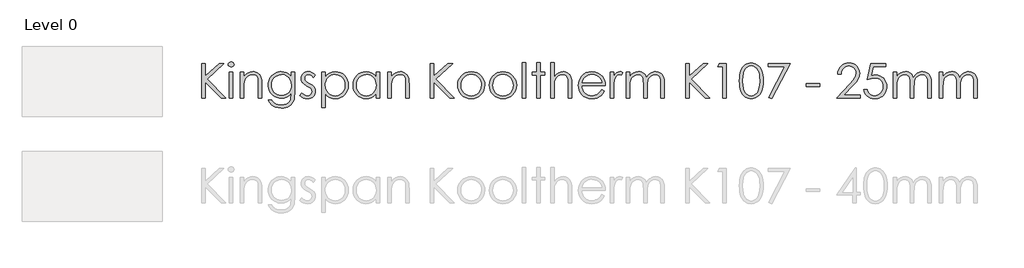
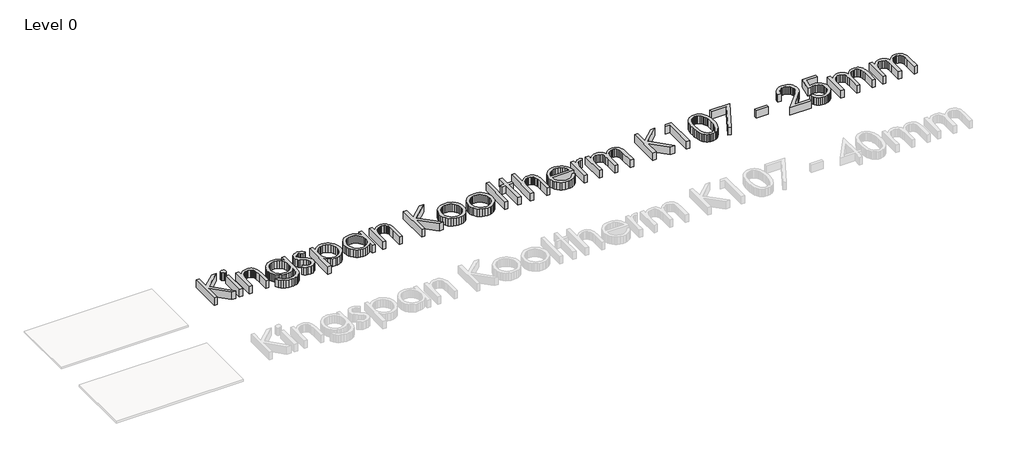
# One storey, part 13 of 13: 1 proxy.
"""IFC4 building model written with IfcOpenShell, lengths in millimetres."""

from ifc_helpers import new_model, si_unit, origin, origin_with_axes, place, context, project, spatial, polyline, outline, extrude, element, save

model = new_model("IFC4")

# Units and contexts
model_context = context("Model", 3, world=origin())
ifc_project = project(units=[si_unit("LENGTHUNIT", "METRE", prefix="MILLI")], contexts=[model_context])

# Site, building, storey
site = spatial("IfcSite", under=ifc_project)
building = spatial("IfcBuilding", under=site)
storey = spatial("IfcBuildingStorey", under=building, Name="Level 0", Elevation=0.0)

# Proxy
placement = place(None, origin())
element("IfcBuildingElementProxy", 1, Name="600mm KI_CenturyGothic", ObjectType="600mm KI_CenturyGothic", at=placement, inside=storey, context=model_context, shape_type="SweptSolid", body=[
    extrude(outline(polyline([(-3852.2663848, 5900.8965983), (-3792.944575, 5900.8965983), (-3792.944575, 5681.683973), (-3555.1938841, 5900.8965983), (-3471.6181051, 5900.8965983), (-3760.9664119, 5633.9484541), (-3441.9572002, 5307.6785001), (-3520.8984627, 5307.6785001), (-3792.944575, 5585.9039675), (-3792.944575, 5307.6785001), (-3852.2663848, 5307.6785001), (-3852.2663848, 5900.8965983)])), origin_with_axes(), (0.0, 0.0, 1.0), 150.0),
    extrude(outline(polyline([(-3348.1854852, 5930.5575033), (-3329.145347, 5927.2747208), (-3313.1176445, 5917.4263735), (-3302.226531, 5902.9821307), (-3298.5961598, 5885.911662), (-3302.226531, 5869.0729191), (-3313.1176445, 5854.7059183), (-3329.145347, 5844.857571), (-3348.1854852, 5841.5747885), (-3366.9938975, 5844.857571), (-3382.9443581, 5854.7059183), (-3393.8354717, 5869.0729191), (-3397.4658428, 5885.911662), (-3393.8354717, 5902.9821307), (-3382.9443581, 5917.4263735), (-3366.9938975, 5927.2747208), (-3348.1854852, 5930.5575033)])), origin_with_axes(), (0.0, 0.0, 1.0), 150.0),
    extrude(outline(polyline([(-3377.6919062, 5752.5920738), (-3318.3700964, 5752.5920738), (-3318.3700964, 5307.6785001), (-3377.6919062, 5307.6785001), (-3377.6919062, 5752.5920738)])), origin_with_axes(), (0.0, 0.0, 1.0), 150.0),
    extrude(outline(polyline([(-3189.8395084, 5752.5920738), (-3130.5176986, 5752.5920738), (-3130.5176986, 5673.4963274), (-3096.9946967, 5713.0055796), (-3060.0730495, 5740.696815), (-3019.7141359, 5757.0334853), (-2975.879335, 5762.4790421), (-2953.4357238, 5760.9004099), (-2932.2955704, 5756.1645135), (-2912.4588747, 5748.2713528), (-2893.9256368, 5737.2209277), (-2877.212412, 5723.4960006), (-2862.835756, 5707.5793333), (-2841.0921499, 5669.1707787), (-2833.6238199, 5644.7912914), (-2828.2892984, 5614.4448643), (-2824.0216812, 5535.8511905), (-2824.0216812, 5307.6785001), (-2883.343491, 5307.6785001), (-2883.343491, 5520.8662542), (-2883.343491, 5623.907002), (-2884.7290183, 5644.7043943), (-2889.8125035, 5662.7596977), (-2898.2849788, 5678.0729123), (-2910.1464442, 5690.644038), (-2924.7403432, 5700.4441091), (-2941.4101193, 5707.4441599), (-2980.977303, 5713.0442006), (-3005.3471351, 5710.8862539), (-3028.4038541, 5704.4124138), (-3050.1474602, 5693.6226803), (-3070.5779533, 5678.5170534), (-3088.6622225, 5660.2348518), (-3103.3671568, 5639.915394), (-3114.6927562, 5617.55868), (-3122.6390208, 5593.1647099), (-3128.5480292, 5546.0857475), (-3130.5176986, 5471.5858965), (-3130.5176986, 5307.6785001), (-3189.8395084, 5307.6785001), (-3189.8395084, 5752.5920738)])), origin_with_axes(), (0.0, 0.0, 1.0), 150.0),
    extrude(outline(polyline([(-2319.7862977, 5752.5920738), (-2260.4644879, 5752.5920738), (-2260.4644879, 5401.604699), (-2264.5196897, 5321.3503235), (-2269.588692, 5290.5500999), (-2276.6852953, 5265.9678526), (-2289.9371156, 5237.3545415), (-2307.2924139, 5212.2267729), (-2328.7511904, 5190.5845469), (-2354.3134448, 5172.4278634), (-2383.3226209, 5158.0656902), (-2415.122162, 5147.8069951), (-2449.7120682, 5141.651778), (-2487.0923395, 5139.6000389), (-2541.0458345, 5143.6166198), (-2589.206184, 5155.6663624), (-2630.260275, 5174.4940853), (-2662.8949946, 5198.8446068), (-2690.2000204, 5232.1938144), (-2715.2650299, 5278.0175952), (-2655.94322, 5278.0175952), (-2642.4355358, 5256.848476), (-2627.0933555, 5238.6048954), (-2609.9166791, 5223.2868532), (-2590.9055067, 5210.8943494), (-2569.7894914, 5201.3308318), (-2546.2982864, 5194.4997477), (-2492.1903075, 5189.0348805), (-2438.5071593, 5194.3645743), (-2415.083541, 5201.0266916), (-2393.93856, 5210.3536559), (-2359.6624492, 5234.3952097), (-2336.8567664, 5263.8823202), (-2329.3884364, 5282.5217658), (-2324.0539149, 5306.2302137), (-2319.7862977, 5368.8541165), (-2319.7862977, 5391.5632468), (-2354.757586, 5355.7809182), (-2396.6420279, 5329.3834852), (-2443.392712, 5313.1047464), (-2492.9627269, 5307.6785001), (-2522.4063889, 5309.5757553), (-2550.9521133, 5315.2675207), (-2578.5999001, 5324.7537964), (-2605.3497494, 5338.0345825), (-2630.1540674, 5354.5257366), (-2651.9652601, 5373.6431168), (-2670.7833277, 5395.3867228), (-2686.6082702, 5419.7565549), (-2699.1456025, 5446.0719183), (-2708.1008399, 5473.6521184), (-2713.4739824, 5502.4971553), (-2715.2650299, 5532.607029), (-2713.3967404, 5562.8955247), (-2707.7918722, 5592.1219437), (-2698.4504251, 5620.286286), (-2685.3723991, 5647.3885517), (-2668.9971079, 5672.5742517), (-2649.7638648, 5694.9888971), (-2627.67267, 5714.632488), (-2602.7235235, 5731.5050242), (-2575.9833294, 5745.056157), (-2548.5189922, 5754.7355376), (-2520.3305117, 5760.543166), (-2491.4178881, 5762.4790421), (-2444.5320306, 5757.5355579), (-2400.8903346, 5742.7051055), (-2359.6045177, 5716.1338782), (-2319.7862977, 5675.9680694), (-2319.7862977, 5752.5920738)]), holes=[polyline([(-2484.1571458, 5713.0442006), (-2529.0154023, 5707.0193293), (-2570.5908765, 5688.9447153), (-2606.2187212, 5660.2300242), (-2633.2340897, 5622.2849212), (-2650.2659375, 5578.0059792), (-2655.94322, 5530.2897708), (-2653.0080263, 5494.3770964), (-2644.2024452, 5461.7182387), (-2629.5264766, 5432.3131977), (-2608.9801206, 5406.1619734), (-2583.7606272, 5384.703197), (-2555.0652466, 5369.3754996), (-2522.8939786, 5360.1788811), (-2487.2468234, 5357.1133416), (-2451.3244937, 5360.154743), (-2419.1001219, 5369.2789472), (-2390.573708, 5384.4859541), (-2365.7452519, 5405.7757637), (-2345.6382095, 5432.0187128), (-2331.2760363, 5462.0851379), (-2322.6587323, 5495.975039), (-2319.7862977, 5533.6884162), (-2325.0773706, 5582.3894593), (-2340.9505892, 5625.6063246), (-2366.4983608, 5661.8327944), (-2400.8130926, 5689.5626508), (-2440.9982119, 5707.1738131), (-2484.1571458, 5713.0442006)])]), origin_with_axes(), (0.0, 0.0, 1.0), 150.0),
    extrude(outline(polyline([(-1904.5336289, 5701.3034257), (-1940.9918246, 5663.609359), (-1962.9575012, 5685.2371022), (-1984.6721416, 5700.6854902), (-2006.1357456, 5709.954523), (-2027.3483133, 5713.0442006), (-2052.181597, 5708.3710632), (-2073.2300256, 5694.3516511), (-2087.5970264, 5674.1142629), (-2092.3860267, 5650.787197), (-2088.4466878, 5629.2366958), (-2076.628671, 5608.7675817), (-2052.0657341, 5586.599145), (-2010.2006027, 5560.877579), (-1958.3326401, 5528.0111336), (-1939.8428507, 5512.1861912), (-1926.315856, 5496.7667689), (-1909.9791857, 5464.0934284), (-1904.5336289, 5427.5579908), (-1906.9474396, 5401.4115941), (-1914.1888714, 5377.3507299), (-1926.2579245, 5355.375398), (-1943.1545989, 5335.4855985), (-1963.6719892, 5318.9944443), (-1986.6031901, 5307.2150485), (-2011.9482016, 5300.147411), (-2039.7070237, 5297.7915318), (-2077.4397114, 5301.6729393), (-2113.3958344, 5313.3171617), (-2145.4512394, 5331.7972958), (-2171.4817731, 5356.1864383), (-2135.7959969, 5396.6612148), (-2114.0041146, 5375.0334717), (-2091.5749863, 5359.5850837), (-2068.5086121, 5350.3160509), (-2044.8049918, 5347.2263733), (-2013.637869, 5352.8650349), (-1987.4914724, 5369.7810198), (-1969.7644472, 5394.3439566), (-1963.8554388, 5422.9234744), (-1967.7561567, 5446.7139919), (-1979.4583106, 5467.7237995), (-2005.0253927, 5489.4287846), (-2050.2119275, 5516.2317378), (-2099.762632, 5546.8967879), (-2117.441381, 5562.0555186), (-2130.3890611, 5577.0983864), (-2146.3781427, 5609.2310334), (-2151.7078365, 5645.689229), (-2149.5305794, 5669.7356104), (-2142.9988078, 5691.6674937), (-2132.1125219, 5711.4848789), (-2116.8717217, 5729.187766), (-2098.309518, 5743.7526993), (-2077.4590218, 5754.1562231), (-2054.3202332, 5760.3983373), (-2028.8931521, 5762.4790421), (-1997.9481, 5758.6555661), (-1966.9064954, 5747.185138), (-1935.7683384, 5728.0677579), (-1904.5336289, 5701.3034257)])), origin_with_axes(), (0.0, 0.0, 1.0), 150.0),
    extrude(outline(polyline([(-1795.7769776, 5752.5920738), (-1736.4551678, 5752.5920738), (-1736.4551678, 5671.4880369), (-1700.9238754, 5711.7310876), (-1660.4490989, 5740.0788795), (-1614.9922173, 5756.8790014), (-1564.5146096, 5762.4790421), (-1520.0618732, 5758.2403906), (-1478.9305402, 5745.5244363), (-1441.1206107, 5724.331179), (-1406.6320845, 5694.6606189), (-1377.9077381, 5659.0231189), (-1357.3903478, 5619.929042), (-1345.0799137, 5577.3783884), (-1340.9764356, 5531.371158), (-1345.0412927, 5484.4708176), (-1357.235864, 5441.2491246), (-1377.5601494, 5401.706079), (-1406.014149, 5365.8416808), (-1440.2130179, 5336.0697406), (-1477.7719111, 5314.8040691), (-1518.6908288, 5302.0446661), (-1562.9697708, 5297.7915318), (-1612.6170277, 5303.256399), (-1658.0545988, 5319.6510008), (-1699.3211052, 5346.8980951), (-1736.4551678, 5384.92044), (-1736.4551678, 5149.4870072), (-1795.7769776, 5149.4870072), (-1795.7769776, 5752.5920738)]), holes=[polyline([(-1568.5311905, 5713.0442006), (-1602.5852307, 5709.7469353), (-1633.8392507, 5699.8551393), (-1662.2932503, 5683.3688128), (-1687.9472295, 5660.2879556), (-1709.1694525, 5632.3022353), (-1724.3281832, 5601.1013192), (-1733.4234216, 5566.6852074), (-1736.4551678, 5529.0538998), (-1731.048232, 5480.1983728), (-1714.8274246, 5436.5180558), (-1688.5265441, 5399.6736505), (-1652.8793888, 5371.3258586), (-1611.4390881, 5353.2512446), (-1567.7587711, 5347.2263733), (-1525.0632888, 5353.2898656), (-1485.0326535, 5371.4803424), (-1450.2544701, 5400.5812433), (-1423.3163435, 5439.3760076), (-1406.05277, 5484.0411593), (-1400.2982454, 5530.7532225), (-1405.9948385, 5577.6970114), (-1423.0846177, 5622.1304373), (-1449.8103289, 5660.4810605), (-1484.414718, 5689.1764411), (-1524.7157001, 5707.0772607), (-1568.5311905, 5713.0442006)])]), origin_with_axes(), (0.0, 0.0, 1.0), 150.0),
    extrude(outline(polyline([(-807.0801472, 5752.5920738), (-807.0801472, 5307.6785001), (-866.401957, 5307.6785001), (-866.401957, 5383.5300851), (-903.4780882, 5345.6815345), (-944.8797679, 5318.9558233), (-990.4525125, 5303.0826047), (-1040.0418379, 5297.7915318), (-1084.3159523, 5302.0446661), (-1125.2203871, 5314.8040691), (-1162.7551422, 5336.0697406), (-1196.9202178, 5365.8416808), (-1225.340424, 5401.706079), (-1245.6405713, 5441.2491246), (-1257.8206597, 5484.4708176), (-1261.8806892, 5531.371158), (-1257.7820388, 5577.3783884), (-1245.4860875, 5619.929042), (-1224.9928353, 5659.0231189), (-1196.3022822, 5694.6606189), (-1161.8475494, 5724.331179), (-1124.061758, 5745.5244363), (-1082.9449079, 5758.2403906), (-1038.4969991, 5762.4790421), (-987.7490446, 5756.8790014), (-942.0990581, 5740.0788795), (-921.2051134, 5727.3918909), (-901.6242816, 5711.7310876), (-866.401957, 5671.4880369), (-866.401957, 5752.5920738), (-807.0801472, 5752.5920738)]), holes=[polyline([(-1034.3259343, 5713.0442006), (-1078.1414247, 5707.0772607), (-1118.4424068, 5689.1764411), (-1153.0467959, 5660.4810605), (-1179.7725071, 5622.1304373), (-1196.8622863, 5577.6970114), (-1202.5588794, 5530.7532225), (-1196.8043548, 5484.0411593), (-1179.5407813, 5439.3760076), (-1152.6026548, 5400.5812433), (-1117.8244713, 5371.4803424), (-1077.6779731, 5353.2898656), (-1034.6349021, 5347.2263733), (-991.0125165, 5353.2512446), (-949.7460102, 5371.3258586), (-914.2726493, 5399.6736505), (-888.0297002, 5436.5180558), (-871.8088928, 5480.1983728), (-866.401957, 5529.0538998), (-869.4337032, 5566.6852074), (-878.5289416, 5601.1013192), (-893.6876723, 5632.3022353), (-914.9098953, 5660.2879556), (-940.5638746, 5683.3688128), (-969.0178742, 5699.8551393), (-1000.2718941, 5709.7469353), (-1034.3259343, 5713.0442006)])]), origin_with_axes(), (0.0, 0.0, 1.0), 150.0),
    extrude(outline(polyline([(-668.662591, 5752.5920738), (-609.3407811, 5752.5920738), (-609.3407811, 5673.4963274), (-575.8177792, 5713.0055796), (-538.896132, 5740.696815), (-498.5372184, 5757.0334853), (-454.7024175, 5762.4790421), (-432.2588064, 5760.9004099), (-411.1186529, 5756.1645135), (-391.2819572, 5748.2713528), (-372.7487193, 5737.2209277), (-356.0354946, 5723.4960006), (-341.6588385, 5707.5793333), (-319.9152324, 5669.1707787), (-312.4469024, 5644.7912914), (-307.1123809, 5614.4448643), (-302.8447637, 5535.8511905), (-302.8447637, 5307.6785001), (-362.1665735, 5307.6785001), (-362.1665735, 5520.8662542), (-362.1665735, 5623.907002), (-363.5521008, 5644.7043943), (-368.635586, 5662.7596977), (-377.1080613, 5678.0729123), (-388.9695267, 5690.644038), (-403.5634257, 5700.4441091), (-420.2332018, 5707.4441599), (-459.8003855, 5713.0442006), (-484.1702176, 5710.8862539), (-507.2269366, 5704.4124138), (-528.9705427, 5693.6226803), (-549.4010358, 5678.5170534), (-567.485305, 5660.2348518), (-582.1902393, 5639.915394), (-593.5158387, 5617.55868), (-601.4621033, 5593.1647099), (-607.3711117, 5546.0857475), (-609.3407811, 5471.5858965), (-609.3407811, 5307.6785001), (-668.662591, 5307.6785001), (-668.662591, 5752.5920738)])), origin_with_axes(), (0.0, 0.0, 1.0), 150.0),
    extrude(outline(polyline([(62.9730635, 5900.8965983), (122.2948734, 5900.8965983), (122.2948734, 5681.683973), (360.0455643, 5900.8965983), (443.6213432, 5900.8965983), (154.2730365, 5633.9484541), (473.2822481, 5307.6785001), (394.3409856, 5307.6785001), (122.2948734, 5585.9039675), (122.2948734, 5307.6785001), (62.9730635, 5307.6785001), (62.9730635, 5900.8965983)])), origin_with_axes(), (0.0, 0.0, 1.0), 150.0),
    extrude(outline(polyline([(760.1588128, 5762.4790421), (809.4681362, 5757.8541809), (854.3553585, 5743.9795975), (894.8204798, 5720.8552917), (930.8635, 5688.4812637), (957.7630055, 5653.2492839), (976.9769381, 5614.908316), (988.5052976, 5573.45836), (992.3480841, 5528.8994159), (988.283227, 5484.0846079), (976.0886558, 5442.1760279), (955.7643703, 5403.1736759), (927.3103707, 5367.0775519), (892.4742558, 5336.7649181), (853.0036246, 5315.1130368), (808.8984769, 5302.1219081), (760.1588128, 5297.7915318), (711.2839754, 5302.1219081), (667.0822753, 5315.1130368), (627.5537126, 5336.7649181), (592.6982872, 5367.0775519), (564.2442876, 5403.1736759), (543.9200022, 5442.1760279), (531.7254309, 5484.0846079), (527.6605738, 5528.8994159), (531.5033603, 5573.2652551), (543.0317198, 5614.5993482), (562.2456524, 5652.9016951), (589.145158, 5688.1722959), (625.2074886, 5720.6814974), (665.7305413, 5743.9023555), (710.7143161, 5757.8348705), (760.1588128, 5762.4790421)]), holes=[polyline([(760.004329, 5713.0442006), (725.7282181, 5709.6696933), (693.9624704, 5699.5461716), (664.7070856, 5682.6736353), (637.962064, 5659.0520846), (615.6584538, 5630.6415336), (599.7273037, 5599.4019965), (590.1686137, 5565.3334734), (586.9823836, 5528.4359643), (592.7948396, 5480.7004454), (610.2322075, 5436.3635719), (637.5758543, 5398.5729529), (673.1071466, 5370.4761972), (714.6439998, 5353.0388293), (760.004329, 5347.2263733), (805.3646581, 5353.0388293), (846.9015113, 5370.4761972), (882.4328037, 5398.5729529), (909.7764504, 5436.3635719), (927.2138183, 5480.7004454), (933.0262743, 5528.4359643), (929.8255614, 5565.3334734), (920.2234227, 5599.4019965), (904.2198583, 5630.6415336), (881.8148681, 5659.0520846), (854.9974321, 5682.6736353), (825.7565303, 5699.5461716), (794.0921625, 5709.6696933), (760.004329, 5713.0442006)])]), origin_with_axes(), (0.0, 0.0, 1.0), 150.0),
    extrude(outline(polyline([(1303.9420695, 5762.4790421), (1353.2513929, 5757.8541809), (1398.1386152, 5743.9795975), (1438.6037365, 5720.8552917), (1474.6467567, 5688.4812637), (1501.5462622, 5653.2492839), (1520.7601948, 5614.908316), (1532.2885543, 5573.45836), (1536.1313408, 5528.8994159), (1532.0664837, 5484.0846079), (1519.8719125, 5442.1760279), (1499.547627, 5403.1736759), (1471.0936274, 5367.0775519), (1436.2575126, 5336.7649181), (1396.7868813, 5315.1130368), (1352.6817336, 5302.1219081), (1303.9420695, 5297.7915318), (1255.0672321, 5302.1219081), (1210.865532, 5315.1130368), (1171.3369693, 5336.7649181), (1136.4815439, 5367.0775519), (1108.0275443, 5403.1736759), (1087.7032589, 5442.1760279), (1075.5086876, 5484.0846079), (1071.4438305, 5528.8994159), (1075.286617, 5573.2652551), (1086.8149766, 5614.5993482), (1106.0289091, 5652.9016951), (1132.9284147, 5688.1722959), (1168.9907453, 5720.6814974), (1209.5137981, 5743.9023555), (1254.4975728, 5757.8348705), (1303.9420695, 5762.4790421)]), holes=[polyline([(1303.7875857, 5713.0442006), (1269.5114748, 5709.6696933), (1237.7457271, 5699.5461716), (1208.4903423, 5682.6736353), (1181.7453207, 5659.0520846), (1159.4417105, 5630.6415336), (1143.5105604, 5599.4019965), (1133.9518704, 5565.3334734), (1130.7656404, 5528.4359643), (1136.5780963, 5480.7004454), (1154.0154643, 5436.3635719), (1181.359111, 5398.5729529), (1216.8904033, 5370.4761972), (1258.4272565, 5353.0388293), (1303.7875857, 5347.2263733), (1349.1479149, 5353.0388293), (1390.684768, 5370.4761972), (1426.2160604, 5398.5729529), (1453.5597071, 5436.3635719), (1470.997075, 5480.7004454), (1476.809531, 5528.4359643), (1473.6088181, 5565.3334734), (1464.0066795, 5599.4019965), (1448.003115, 5630.6415336), (1425.5981249, 5659.0520846), (1398.7806889, 5682.6736353), (1369.539787, 5699.5461716), (1337.8754193, 5709.6696933), (1303.7875857, 5713.0442006)])]), origin_with_axes(), (0.0, 0.0, 1.0), 150.0),
    extrude(outline(polyline([(1635.0010238, 5920.6705349), (1694.3228337, 5920.6705349), (1694.3228337, 5307.6785001), (1635.0010238, 5307.6785001), (1635.0010238, 5920.6705349)])), origin_with_axes(), (0.0, 0.0, 1.0), 150.0),
    extrude(outline(polyline([(1882.1752314, 5920.6705349), (1941.4970413, 5920.6705349), (1941.4970413, 5752.5920738), (2020.5927877, 5752.5920738), (2020.5927877, 5703.1572323), (1941.4970413, 5703.1572323), (1941.4970413, 5307.6785001), (1882.1752314, 5307.6785001), (1882.1752314, 5703.1572323), (1803.079485, 5703.1572323), (1803.079485, 5752.5920738), (1882.1752314, 5752.5920738), (1882.1752314, 5920.6705349)])), origin_with_axes(), (0.0, 0.0, 1.0), 150.0),
    extrude(outline(polyline([(2119.4624707, 5920.6705349), (2178.7842806, 5920.6705349), (2178.7842806, 5671.9514886), (2212.5583188, 5711.6538456), (2249.6151394, 5739.9243956), (2289.9161216, 5756.8403805), (2333.4226442, 5762.4790421), (2355.8662553, 5760.9004099), (2377.0064088, 5756.1645135), (2396.8431044, 5748.2713528), (2415.3763424, 5737.2209277), (2432.0895671, 5723.5104834), (2446.4662232, 5707.6372648), (2468.2098293, 5669.4025045), (2475.6781593, 5645.0954316), (2481.0126808, 5614.7345216), (2485.280298, 5535.8511905), (2485.280298, 5307.6785001), (2425.9584882, 5307.6785001), (2425.9584882, 5520.8662542), (2424.5681332, 5585.247411), (2420.3970685, 5623.907002), (2406.879729, 5662.7596977), (2397.1665551, 5678.0729123), (2385.4837117, 5690.644038), (2371.840854, 5700.4441091), (2356.2476374, 5707.4441599), (2319.2101273, 5713.0442006), (2296.3416854, 5710.8862539), (2274.6994594, 5704.4124138), (2254.2834492, 5693.6226803), (2235.0936547, 5678.5170534), (2218.1052556, 5660.2348518), (2204.2934312, 5639.915394), (2193.6581816, 5617.55868), (2186.1995068, 5593.1647099), (2180.6380871, 5546.3174733), (2178.7842806, 5471.5858965), (2178.7842806, 5307.6785001), (2119.4624707, 5307.6785001), (2119.4624707, 5920.6705349)])), origin_with_axes(), (0.0, 0.0, 1.0), 150.0),
    extrude(outline(polyline([(2991.0605203, 5455.9830247), (3038.950523, 5430.8021523), (3013.3255094, 5388.9177104), (2984.0315038, 5355.9547125), (2950.952643, 5330.8703926), (2913.9730643, 5312.6219843), (2872.4941426, 5301.4991449), (2825.9172528, 5297.7915318), (2774.4258447, 5302.2232881), (2728.8627554, 5315.518557), (2689.227985, 5337.6773385), (2655.5215335, 5368.6996326), (2628.6220279, 5405.3026569), (2609.4080954, 5444.2036288), (2597.8797358, 5485.4025485), (2594.0369493, 5528.8994159), (2597.3197318, 5569.7797126), (2607.1680791, 5608.381372), (2623.5819913, 5644.7043943), (2646.5614684, 5678.7487793), (2682.7493173, 5715.3807692), (2724.5758277, 5741.5464764), (2772.0409998, 5757.2459007), (2825.1448334, 5762.4790421), (2879.7935059, 5757.1107273), (2928.6490329, 5741.0057828), (2971.7114143, 5714.1642087), (3008.9806503, 5676.5860049), (3030.4539096, 5644.414737), (3045.9022976, 5608.458614), (3055.3258143, 5568.7176359), (3058.7244596, 5525.1918028), (2653.3587591, 5525.1918028), (2657.095338, 5487.9370497), (2666.6057518, 5454.1871496), (2681.8900007, 5423.9421025), (2702.9480845, 5397.2019084), (2728.3124066, 5375.3376118), (2756.5153699, 5359.7202571), (2787.5569744, 5350.3498443), (2821.4372203, 5347.2263733), (2854.9602222, 5350.238809), (2887.5563208, 5359.2761159), (2917.2944677, 5373.3148385), (2942.2436143, 5391.331521), (2965.725164, 5417.4972281), (2991.0605203, 5455.9830247)]), holes=[polyline([(2999.4026498, 5574.6266443), (2984.9777175, 5617.1483322), (2965.1844704, 5650.1692615), (2939.0766947, 5675.6977226), (2905.7081767, 5695.742006), (2867.7630738, 5708.7186519), (2827.9255433, 5713.0442006), (2795.503239, 5710.3310774), (2765.4368139, 5702.191708), (2737.726268, 5688.6260923), (2712.3716012, 5669.6342304), (2695.8321708, 5651.820308), (2681.4362043, 5630.0477362), (2669.1837016, 5604.316515), (2659.0746627, 5574.6266443), (2999.4026498, 5574.6266443)])]), origin_with_axes(), (0.0, 0.0, 1.0), 150.0),
    extrude(outline(polyline([(3137.820206, 5752.5920738), (3197.1420159, 5752.5920738), (3197.1420159, 5688.1722959), (3222.6897875, 5721.2125357), (3249.589293, 5744.3271862), (3277.7632906, 5757.9410781), (3307.1345382, 5762.4790421), (3330.4616041, 5758.694187), (3355.3335087, 5747.3396219), (3325.8270877, 5705.3200066), (3297.2475699, 5713.0442006), (3270.8308265, 5707.0965712), (3245.3409863, 5689.2536831), (3223.2884125, 5658.8976007), (3207.183468, 5615.4103886), (3199.6523789, 5557.2858288), (3197.1420159, 5459.8451217), (3197.1420159, 5307.6785001), (3137.820206, 5307.6785001), (3137.820206, 5752.5920738)])), origin_with_axes(), (0.0, 0.0, 1.0), 150.0),
    extrude(outline(polyline([(3414.6553185, 5752.5920738), (3473.9771284, 5752.5920738), (3473.9771284, 5676.4315211), (3503.5607913, 5712.9283377), (3533.9168737, 5738.0705891), (3577.3268439, 5756.3769288), (3622.8995884, 5762.4790421), (3653.7384329, 5759.331433), (3682.9165757, 5749.8886059), (3708.6767627, 5735.2126373), (3729.2617397, 5716.365604), (3746.0425511, 5690.9336953), (3760.3902414, 5656.5031006), (3775.16759, 5680.9018983), (3791.6925376, 5702.191708), (3809.965084, 5720.3725296), (3829.9852293, 5735.4443631), (3851.2798666, 5747.2720352), (3873.375889, 5755.7203723), (3896.2732965, 5760.7893747), (3919.9720892, 5762.4790421), (3962.3006723, 5756.6665861), (3981.4952943, 5749.4010161), (3999.3768034, 5739.2292182), (4015.4914031, 5726.46016), (4029.385297, 5711.4028093), (4050.5109676, 5674.4232306), (4057.8103309, 5651.0478886), (4063.0241619, 5622.4780261), (4067.1952266, 5549.7547397), (4067.1952266, 5307.6785001), (4007.8734168, 5307.6785001), (4007.8734168, 5553.3078689), (4005.4209852, 5614.4255538), (3998.0636904, 5652.8727294), (3984.7587663, 5677.3391139), (3964.4634466, 5696.5144254), (3938.3942919, 5708.9117568), (3907.7678627, 5713.0442006), (3888.1194443, 5711.4945341), (3869.3399976, 5706.8455349), (3834.3880198, 5688.2495379), (3805.6540182, 5659.3031209), (3785.8800816, 5622.0531954), (3779.1889985, 5597.8957787), (3774.4096535, 5566.8252084), (3770.5861775, 5483.9446069), (3770.5861775, 5307.6785001), (3711.2643677, 5307.6785001), (3711.2643677, 5538.0139648), (3708.850557, 5606.469634), (3701.6091252, 5648.7016647), (3688.3621325, 5674.9446137), (3667.9316394, 5695.4330383), (3641.6114484, 5708.64141), (3610.6953619, 5713.0442006), (3573.7544042, 5707.0000188), (3539.2465676, 5688.8674734), (3510.2808401, 5660.500371), (3489.9662099, 5623.7525181), (3477.9743988, 5571.9231764), (3473.9771284, 5498.3116077), (3473.9771284, 5307.6785001), (3414.6553185, 5307.6785001), (3414.6553185, 5752.5920738)])), origin_with_axes(), (0.0, 0.0, 1.0), 150.0),
    extrude(outline(polyline([(4433.0130538, 5900.8965983), (4492.3348637, 5900.8965983), (4492.3348637, 5681.683973), (4730.0855546, 5900.8965983), (4813.6613335, 5900.8965983), (4524.3130268, 5633.9484541), (4843.3222385, 5307.6785001), (4764.3809759, 5307.6785001), (4492.3348637, 5585.9039675), (4492.3348637, 5307.6785001), (4433.0130538, 5307.6785001), (4433.0130538, 5900.8965983)])), origin_with_axes(), (0.0, 0.0, 1.0), 150.0),
    extrude(outline(polyline([(5010.6282802, 5900.8965983), (5125.1008351, 5900.8965983), (5125.1008351, 5307.6785001), (5065.7790253, 5307.6785001), (5065.7790253, 5851.4617568), (4976.7963106, 5851.4617568), (5010.6282802, 5900.8965983)])), origin_with_axes(), (0.0, 0.0, 1.0), 150.0),
    extrude(outline(polyline([(5352.5011061, 5604.1330653), (5354.0797383, 5658.5644948), (5358.8156347, 5706.4593252), (5366.7087954, 5747.8175564), (5377.7592204, 5782.6391884), (5391.6869077, 5812.2807828), (5408.2118552, 5838.0989012), (5427.334063, 5860.0935436), (5449.053531, 5878.26471), (5472.747496, 5892.4917098), (5497.793195, 5902.6538525), (5524.190628, 5908.7511381), (5551.9397949, 5910.7835666), (5580.1427582, 5908.7366552), (5606.974677, 5902.595921), (5632.4355515, 5892.361364), (5656.5253815, 5878.0329841), (5678.7083011, 5859.6156091), (5698.4484443, 5837.1140665), (5715.7458112, 5810.5283563), (5730.6004018, 5779.8584786), (5742.5294539, 5744.3416691), (5751.0502054, 5703.2151637), (5756.1626563, 5656.4789625), (5757.8668066, 5604.1330653), (5756.1867944, 5551.9464797), (5751.1467578, 5505.3792452), (5742.7466968, 5464.4313618), (5730.9866115, 5429.1028296), (5716.2768496, 5398.5777805), (5699.0277589, 5372.0403465), (5679.2393394, 5349.4905277), (5656.9115912, 5330.928324), (5632.6527944, 5316.4309774), (5607.0712295, 5306.0757299), (5580.1668963, 5299.8625813), (5551.9397949, 5297.7915318), (5524.2147661, 5299.7998222), (5497.8897474, 5305.8246936), (5472.964739, 5315.8661457), (5449.4397407, 5329.9241788), (5427.8651013, 5347.9601718), (5408.7911698, 5369.9355036), (5392.2179461, 5395.8501745), (5378.1454301, 5425.7041842), (5366.9260384, 5460.7237487), (5358.9121871, 5502.1350837), (5354.1038764, 5549.9381893), (5352.5011061, 5604.1330653)]), holes=[polyline([(5411.8229159, 5604.2875492), (5416.206396, 5515.961391), (5421.6857461, 5480.9804475), (5429.3568363, 5452.1209277), (5439.1713903, 5427.8814414), (5451.0811319, 5406.7605985), (5465.0860611, 5388.7583989), (5481.1861779, 5373.8748426), (5516.4857445, 5353.8884906), (5534.8886366, 5348.8919027), (5553.7936014, 5347.2263733), (5572.7854634, 5348.8581093), (5591.1400794, 5353.7533172), (5625.9375733, 5373.334149), (5641.694929, 5388.0101176), (5655.4439943, 5405.9302476), (5667.1847692, 5427.0945392), (5676.9172536, 5451.5029922), (5686.3793912, 5484.8618549), (5693.138061, 5521.4455687), (5698.5449967, 5604.2875492), (5693.7173755, 5685.8936587), (5687.682849, 5720.5849449), (5679.2345118, 5751.2017189), (5668.652366, 5777.864671), (5656.2164137, 5800.6944918), (5641.9266548, 5819.6911814), (5625.7830894, 5834.8547397), (5590.7152487, 5854.7252288), (5572.4861509, 5859.692851), (5553.7936014, 5861.3487251), (5534.7776014, 5859.692851), (5516.3505711, 5854.7252288), (5481.2634199, 5834.8547397), (5465.3177869, 5820.0435978), (5451.3900996, 5802.1041572), (5439.480358, 5781.0364181), (5429.5885621, 5756.8403805), (5421.8160919, 5727.9856883), (5416.2643275, 5692.9419857), (5411.8229159, 5604.2875492)])]), origin_with_axes(), (0.0, 0.0, 1.0), 150.0),
    extrude(outline(polyline([(5846.8495213, 5900.8965983), (6222.5543169, 5900.8965983), (5906.1713311, 5297.7915318), (5852.2564571, 5320.1916944), (6130.9453762, 5851.4617568), (5846.8495213, 5851.4617568), (5846.8495213, 5900.8965983)])), origin_with_axes(), (0.0, 0.0, 1.0), 150.0),
    extrude(outline(polyline([(6499.3894294, 5554.8527077), (6726.7897004, 5554.8527077), (6726.7897004, 5505.4178662), (6499.3894294, 5505.4178662), (6499.3894294, 5554.8527077)])), origin_with_axes(), (0.0, 0.0, 1.0), 150.0),
    extrude(outline(polyline([(7092.6075276, 5722.9311689), (7033.2857178, 5722.9311689), (7037.7705779, 5762.1893848), (7048.9079001, 5797.7786086), (7066.6976844, 5829.6988403), (7091.1399307, 5857.9500798), (7120.5353165, 5881.0647303), (7153.1845189, 5897.5751949), (7189.0875381, 5907.4814737), (7228.244374, 5910.7835666), (7266.7156877, 5907.4863013), (7301.3345596, 5897.5945054), (7332.1009898, 5881.1081789), (7359.0149782, 5858.0273217), (7380.8792748, 5830.466432), (7396.4966295, 5800.540008), (7405.8670424, 5768.2480495), (7408.9905133, 5733.5905566), (7402.9077106, 5684.7929611), (7384.6593023, 5639.1236641), (7348.8769736, 5587.236391), (7290.1924098, 5519.784867), (7137.4078527, 5357.1133416), (7418.8774816, 5357.1133416), (7418.8774816, 5307.6785001), (7013.5117812, 5307.6785001), (7239.5216972, 5548.3643848), (7296.2559021, 5613.8848603), (7328.9678636, 5659.9789879), (7344.4934935, 5697.3447763), (7349.6687035, 5736.6802342), (7347.419032, 5761.2866196), (7340.6700175, 5784.1260957), (7329.42166, 5805.1986625), (7313.6739595, 5824.5043198), (7294.6627871, 5840.6237471), (7273.6240137, 5852.1376238), (7250.5576394, 5859.0459498), (7225.4636642, 5861.3487251), (7199.1289903, 5859.0749155), (7175.1212299, 5852.2534867), (7153.4403829, 5840.8844387), (7134.0864493, 5824.9677714), (7117.8511591, 5804.9476262), (7105.526242, 5781.268144), (7097.1116982, 5753.9293249), (7092.6075276, 5722.9311689)])), origin_with_axes(), (0.0, 0.0, 1.0), 150.0),
    extrude(outline(polyline([(7853.904087, 5900.8965983), (7853.904087, 5851.4617568), (7646.5867204, 5851.4617568), (7612.1368152, 5690.4895541), (7649.7150189, 5699.9903127), (7683.3538838, 5703.1572323), (7722.9403779, 5699.7344488), (7758.8965009, 5689.4660984), (7791.2222528, 5672.3521811), (7819.9176335, 5648.3926969), (7843.4378041, 5619.0842083), (7860.2379261, 5585.923278), (7870.3179992, 5548.909906), (7873.6780236, 5508.0440921), (7871.9545628, 5479.0783647), (7866.7841805, 5451.3485083), (7858.1668766, 5424.8545229), (7846.1026511, 5399.5964086), (7831.0984042, 5376.3948609), (7813.6610363, 5356.0705754), (7793.7905473, 5338.6235523), (7771.4869371, 5324.0537914), (7747.054346, 5312.5640528), (7720.7969141, 5304.3570967), (7692.7146413, 5299.432923), (7662.8075277, 5297.7915318), (7627.4741679, 5300.5481035), (7595.008415, 5308.8178187), (7565.4102692, 5322.6006774), (7538.6797304, 5341.8966795), (7515.9271515, 5365.5665064), (7498.2628853, 5392.4708396), (7485.686932, 5422.609679), (7478.1992914, 5455.9830247), (7537.5211013, 5455.9830247), (7547.0991018, 5423.2517526), (7561.6205865, 5397.3563923), (7581.4524546, 5377.0417621), (7606.9616052, 5361.0526806), (7635.9852641, 5350.6829501), (7666.360657, 5347.2263733), (7695.6498351, 5350.1519118), (7722.8052045, 5358.9285272), (7747.8267654, 5373.5562196), (7770.7145178, 5394.0349889), (7789.8077598, 5418.9068935), (7803.4457898, 5446.7139919), (7811.6286078, 5477.456284), (7814.3562138, 5511.1337697), (7811.8941269, 5541.3208854), (7804.5078664, 5568.5438415), (7792.1974323, 5592.8026383), (7774.9628244, 5614.0972756), (7753.6054281, 5631.4332635), (7728.9266283, 5643.816112), (7700.9264251, 5651.245821), (7669.6048185, 5653.7223907), (7640.8997825, 5651.8685842), (7609.3174844, 5646.3071645), (7537.5211013, 5624.0614858), (7596.8429111, 5900.8965983), (7853.904087, 5900.8965983)])), origin_with_axes(), (0.0, 0.0, 1.0), 150.0),
    extrude(outline(polyline([(7982.4346749, 5752.5920738), (8041.7564848, 5752.5920738), (8041.7564848, 5676.4315211), (8071.3401477, 5712.9283377), (8101.6962301, 5738.0705891), (8145.1062003, 5756.3769288), (8190.6789448, 5762.4790421), (8221.5177893, 5759.331433), (8250.6959321, 5749.8886059), (8276.4561191, 5735.2126373), (8297.0410961, 5716.365604), (8313.8219075, 5690.9336953), (8328.1695978, 5656.5031006), (8342.9469464, 5680.9018983), (8359.471894, 5702.191708), (8377.7444404, 5720.3725296), (8397.7645856, 5735.4443631), (8419.0592229, 5747.2720352), (8441.1552454, 5755.7203723), (8464.0526529, 5760.7893747), (8487.7514456, 5762.4790421), (8530.0800287, 5756.6665861), (8549.2746507, 5749.4010161), (8567.1561598, 5739.2292182), (8583.2707595, 5726.46016), (8597.1646534, 5711.4028093), (8618.290324, 5674.4232306), (8625.5896873, 5651.0478886), (8630.8035182, 5622.4780261), (8634.974583, 5549.7547397), (8634.974583, 5307.6785001), (8575.6527732, 5307.6785001), (8575.6527732, 5553.3078689), (8573.2003416, 5614.4255538), (8565.8430468, 5652.8727294), (8552.5381227, 5677.3391139), (8532.242803, 5696.5144254), (8506.1736483, 5708.9117568), (8475.5472191, 5713.0442006), (8455.8988006, 5711.4945341), (8437.119354, 5706.8455349), (8402.1673762, 5688.2495379), (8373.4333746, 5659.3031209), (8353.659438, 5622.0531954), (8346.9683549, 5597.8957787), (8342.1890099, 5566.8252084), (8338.3655339, 5483.9446069), (8338.3655339, 5307.6785001), (8279.0437241, 5307.6785001), (8279.0437241, 5538.0139648), (8276.6299134, 5606.469634), (8269.3884816, 5648.7016647), (8256.1414889, 5674.9446137), (8235.7109958, 5695.4330383), (8209.3908048, 5708.64141), (8178.4747183, 5713.0442006), (8141.5337606, 5707.0000188), (8107.025924, 5688.8674734), (8078.0601965, 5660.500371), (8057.7455663, 5623.7525181), (8045.7537552, 5571.9231764), (8041.7564848, 5498.3116077), (8041.7564848, 5307.6785001), (7982.4346749, 5307.6785001), (7982.4346749, 5752.5920738)])), origin_with_axes(), (0.0, 0.0, 1.0), 150.0),
    extrude(outline(polyline([(8773.3921393, 5752.5920738), (8832.7139491, 5752.5920738), (8832.7139491, 5676.4315211), (8862.2976121, 5712.9283377), (8892.6536944, 5738.0705891), (8936.0636646, 5756.3769288), (8981.6364092, 5762.4790421), (9012.4752537, 5759.331433), (9041.6533964, 5749.8886059), (9067.4135834, 5735.2126373), (9087.9985604, 5716.365604), (9104.7793718, 5690.9336953), (9119.1270621, 5656.5031006), (9133.9044108, 5680.9018983), (9150.4293583, 5702.191708), (9168.7019047, 5720.3725296), (9188.72205, 5735.4443631), (9210.0166873, 5747.2720352), (9232.1127097, 5755.7203723), (9255.0101172, 5760.7893747), (9278.7089099, 5762.4790421), (9321.037493, 5756.6665861), (9340.232115, 5749.4010161), (9358.1136241, 5739.2292182), (9374.2282238, 5726.46016), (9388.1221177, 5711.4028093), (9409.2477883, 5674.4232306), (9416.5471516, 5651.0478886), (9421.7609826, 5622.4780261), (9425.9320473, 5549.7547397), (9425.9320473, 5307.6785001), (9366.6102375, 5307.6785001), (9366.6102375, 5553.3078689), (9364.1578059, 5614.4255538), (9356.8005111, 5652.8727294), (9343.495587, 5677.3391139), (9323.2002673, 5696.5144254), (9297.1311126, 5708.9117568), (9266.5046834, 5713.0442006), (9246.856265, 5711.4945341), (9228.0768183, 5706.8455349), (9193.1248405, 5688.2495379), (9164.3908389, 5659.3031209), (9144.6169023, 5622.0531954), (9137.9258192, 5597.8957787), (9133.1464742, 5566.8252084), (9129.3229982, 5483.9446069), (9129.3229982, 5307.6785001), (9070.0011884, 5307.6785001), (9070.0011884, 5538.0139648), (9067.5873778, 5606.469634), (9060.3459459, 5648.7016647), (9047.0989532, 5674.9446137), (9026.6684601, 5695.4330383), (9000.3482691, 5708.64141), (8969.4321827, 5713.0442006), (8932.4912249, 5707.0000188), (8897.9833883, 5688.8674734), (8869.0176608, 5660.500371), (8848.7030306, 5623.7525181), (8836.7112195, 5571.9231764), (8832.7139491, 5498.3116077), (8832.7139491, 5307.6785001), (8773.3921393, 5307.6785001), (8773.3921393, 5752.5920738)])), origin_with_axes(), (0.0, 0.0, 1.0), 150.0),
])

save(model, "model.ifc")
